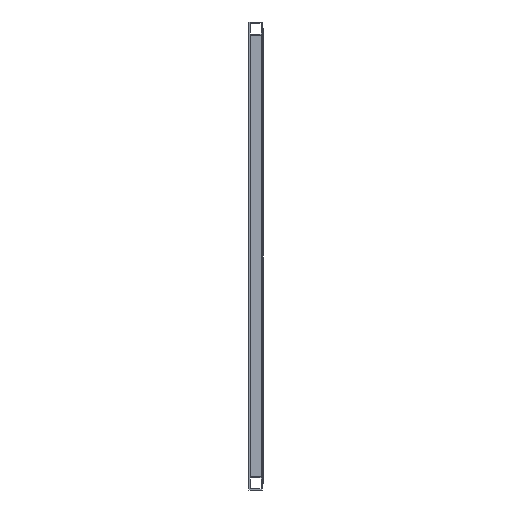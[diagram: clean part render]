
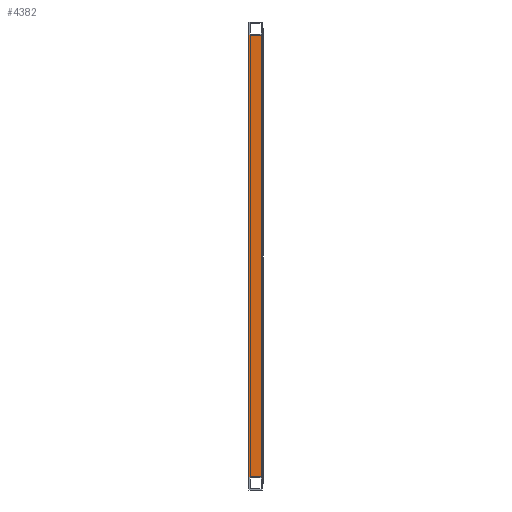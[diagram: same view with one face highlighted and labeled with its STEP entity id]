
A CAD part, front view. The second image highlights one B-rep face of the part: STEP entity #4382.
In plain terms, the highlighted planar face has unit normal (0, -1, 0).
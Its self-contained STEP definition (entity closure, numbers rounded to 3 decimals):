
#114 = DIRECTION ( 'NONE',  ( 0., 0., -1. ) ) ;
#357 = CARTESIAN_POINT ( 'NONE',  ( -10., -10., 0. ) ) ;
#930 = VECTOR ( 'NONE', #114, 1000. ) ;
#1000 = LINE ( 'NONE', #6621, #6477 ) ;
#1006 = CARTESIAN_POINT ( 'NONE',  ( 10., -10., 660. ) ) ;
#1119 = VERTEX_POINT ( 'NONE', #4343 ) ;
#1794 = AXIS2_PLACEMENT_3D ( 'NONE', #4040, #8943, #5012 ) ;
#1804 = EDGE_LOOP ( 'NONE', ( #9934, #5061, #6752, #6908 ) ) ;
#1959 = LINE ( 'NONE', #1006, #930 ) ;
#2184 = CARTESIAN_POINT ( 'NONE',  ( 10., -10., 0. ) ) ;
#2477 = FACE_OUTER_BOUND ( 'NONE', #1804, .T. ) ;
#2630 = PLANE ( 'NONE',  #1794 ) ;
#3176 = VERTEX_POINT ( 'NONE', #8287 ) ;
#3614 = VECTOR ( 'NONE', #9362, 1000. ) ;
#4040 = CARTESIAN_POINT ( 'NONE',  ( -10., -10., 660. ) ) ;
#4343 = CARTESIAN_POINT ( 'NONE',  ( 10., -10., 660. ) ) ;
#4382 = ADVANCED_FACE ( 'NONE', ( #2477 ), #2630, .F. ) ;
#4419 = LINE ( 'NONE', #357, #3614 ) ;
#5012 = DIRECTION ( 'NONE',  ( -1., 0., 0. ) ) ;
#5061 = ORIENTED_EDGE ( 'NONE', *, *, #7635, .F. ) ;
#5204 = VERTEX_POINT ( 'NONE', #2184 ) ;
#6183 = LINE ( 'NONE', #10111, #9660 ) ;
#6477 = VECTOR ( 'NONE', #9829, 1000. ) ;
#6621 = CARTESIAN_POINT ( 'NONE',  ( -10., -10., 660. ) ) ;
#6752 = ORIENTED_EDGE ( 'NONE', *, *, #8119, .F. ) ;
#6908 = ORIENTED_EDGE ( 'NONE', *, *, #9126, .T. ) ;
#7635 = EDGE_CURVE ( 'NONE', #1119, #5204, #1959, .T. ) ;
#8119 = EDGE_CURVE ( 'NONE', #8482, #1119, #1000, .T. ) ;
#8287 = CARTESIAN_POINT ( 'NONE',  ( -10., -10., 0. ) ) ;
#8482 = VERTEX_POINT ( 'NONE', #9661 ) ;
#8542 = DIRECTION ( 'NONE',  ( 0., 0., -1. ) ) ;
#8943 = DIRECTION ( 'NONE',  ( 0., 1., 0. ) ) ;
#9126 = EDGE_CURVE ( 'NONE', #8482, #3176, #6183, .T. ) ;
#9362 = DIRECTION ( 'NONE',  ( 1., 0., 0. ) ) ;
#9394 = EDGE_CURVE ( 'NONE', #3176, #5204, #4419, .T. ) ;
#9660 = VECTOR ( 'NONE', #8542, 1000. ) ;
#9661 = CARTESIAN_POINT ( 'NONE',  ( -10., -10., 660. ) ) ;
#9829 = DIRECTION ( 'NONE',  ( 1., 0., 0. ) ) ;
#9934 = ORIENTED_EDGE ( 'NONE', *, *, #9394, .T. ) ;
#10111 = CARTESIAN_POINT ( 'NONE',  ( -10., -10., 660. ) ) ;
